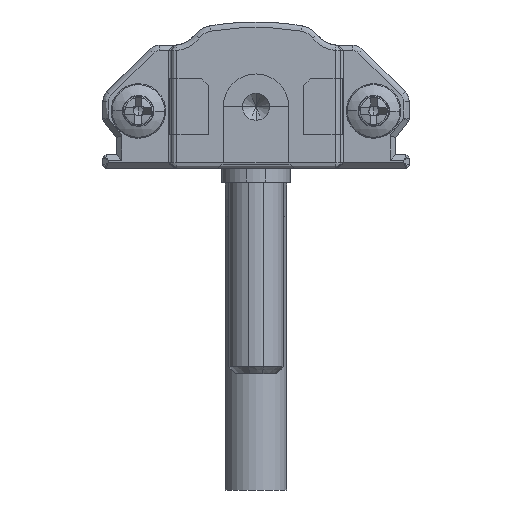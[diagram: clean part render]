
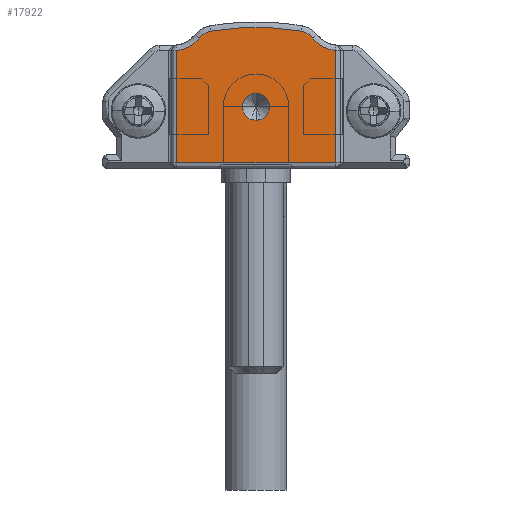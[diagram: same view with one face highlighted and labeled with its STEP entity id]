
A CAD part, front view. The second image highlights one B-rep face of the part: STEP entity #17922.
In plain terms, the highlighted planar face has unit normal (0, -1, 0).
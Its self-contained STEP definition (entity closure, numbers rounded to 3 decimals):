
#316 = CARTESIAN_POINT ( 'NONE',  ( 8.1, -15., 8.75 ) ) ;
#423 = EDGE_CURVE ( 'NONE', #4621, #22729, #12960, .T. ) ;
#453 = DIRECTION ( 'NONE',  ( 0., 0., -1. ) ) ;
#588 = CIRCLE ( 'NONE', #30831, 20.676 ) ;
#1332 = CARTESIAN_POINT ( 'NONE',  ( 14.508, -15., 10.034 ) ) ;
#1482 = CIRCLE ( 'NONE', #5250, 1.3 ) ;
#1896 = FACE_BOUND ( 'NONE', #32739, .T. ) ;
#2021 = LINE ( 'NONE', #27248, #20330 ) ;
#2062 = FACE_OUTER_BOUND ( 'NONE', #30670, .T. ) ;
#2546 = VERTEX_POINT ( 'NONE', #26971 ) ;
#3100 = CARTESIAN_POINT ( 'NONE',  ( 7.068, -15., 9.541 ) ) ;
#3215 = CARTESIAN_POINT ( 'NONE',  ( 11.2, -15., 5.5 ) ) ;
#3285 = CIRCLE ( 'NONE', #20142, 2.4 ) ;
#4621 = VERTEX_POINT ( 'NONE', #5871 ) ;
#5250 = AXIS2_PLACEMENT_3D ( 'NONE', #33092, #7259, #33264 ) ;
#5871 = CARTESIAN_POINT ( 'NONE',  ( 7.892, -15., 10.034 ) ) ;
#6922 = CARTESIAN_POINT ( 'NONE',  ( 15.332, -15., 9.541 ) ) ;
#6948 = CARTESIAN_POINT ( 'NONE',  ( 5.4, -15., 0.4 ) ) ;
#7008 = VECTOR ( 'NONE', #16567, 1000. ) ;
#7191 = VECTOR ( 'NONE', #30894, 1000. ) ;
#7241 = VERTEX_POINT ( 'NONE', #28211 ) ;
#7259 = DIRECTION ( 'NONE',  ( 0., -1., 0. ) ) ;
#7438 = ORIENTED_EDGE ( 'NONE', *, *, #18562, .T. ) ;
#7808 = VERTEX_POINT ( 'NONE', #3215 ) ;
#7908 = CIRCLE ( 'NONE', #25726, 1. ) ;
#9198 = ORIENTED_EDGE ( 'NONE', *, *, #27395, .F. ) ;
#9488 = DIRECTION ( 'NONE',  ( 0., 0., 1. ) ) ;
#10019 = DIRECTION ( 'NONE',  ( 0., 1., 0. ) ) ;
#10129 = EDGE_CURVE ( 'NONE', #12852, #4621, #588, .T. ) ;
#10136 = CARTESIAN_POINT ( 'NONE',  ( 11.2, -15., -10.376 ) ) ;
#10374 = ORIENTED_EDGE ( 'NONE', *, *, #23258, .T. ) ;
#10586 = VERTEX_POINT ( 'NONE', #6948 ) ;
#10701 = ORIENTED_EDGE ( 'NONE', *, *, #14431, .T. ) ;
#11865 = CARTESIAN_POINT ( 'NONE',  ( 11.2, -15., 4.5 ) ) ;
#12058 = CARTESIAN_POINT ( 'NONE',  ( 22.15, -15., 3.606 ) ) ;
#12638 = DIRECTION ( 'NONE',  ( 0., -1., 0. ) ) ;
#12641 = CARTESIAN_POINT ( 'NONE',  ( 5.4, -15., 0.4 ) ) ;
#12852 = VERTEX_POINT ( 'NONE', #1332 ) ;
#12960 = CIRCLE ( 'NONE', #28626, 1.3 ) ;
#13822 = DIRECTION ( 'NONE',  ( 0., -1., 0. ) ) ;
#14431 = EDGE_CURVE ( 'NONE', #23452, #12852, #1482, .T. ) ;
#14700 = AXIS2_PLACEMENT_3D ( 'NONE', #11865, #17298, #26927 ) ;
#15009 = DIRECTION ( 'NONE',  ( 0., 0., -1. ) ) ;
#15415 = LINE ( 'NONE', #21347, #7008 ) ;
#16567 = DIRECTION ( 'NONE',  ( 1., 0., 0. ) ) ;
#16863 = AXIS2_PLACEMENT_3D ( 'NONE', #31220, #28703, #453 ) ;
#16925 = VERTEX_POINT ( 'NONE', #17010 ) ;
#17010 = CARTESIAN_POINT ( 'NONE',  ( 5.4, -15., 8.612 ) ) ;
#17298 = DIRECTION ( 'NONE',  ( 0., -1., 0. ) ) ;
#17922 = ADVANCED_FACE ( 'NONE', ( #2062, #1896 ), #30162, .T. ) ;
#18562 = EDGE_CURVE ( 'NONE', #7241, #23452, #32473, .T. ) ;
#18616 = VERTEX_POINT ( 'NONE', #24322 ) ;
#19541 = DIRECTION ( 'NONE',  ( 0., -1., 0. ) ) ;
#20142 = AXIS2_PLACEMENT_3D ( 'NONE', #23220, #10019, #23067 ) ;
#20330 = VECTOR ( 'NONE', #9488, 1000. ) ;
#21347 = CARTESIAN_POINT ( 'NONE',  ( 17., -15., 0.4 ) ) ;
#22522 = EDGE_CURVE ( 'NONE', #10586, #18616, #15415, .T. ) ;
#22729 = VERTEX_POINT ( 'NONE', #3100 ) ;
#23067 = DIRECTION ( 'NONE',  ( 0., 0., -1. ) ) ;
#23220 = CARTESIAN_POINT ( 'NONE',  ( 5.162, -15., 11. ) ) ;
#23258 = EDGE_CURVE ( 'NONE', #22729, #16925, #3285, .T. ) ;
#23452 = VERTEX_POINT ( 'NONE', #6922 ) ;
#23667 = CARTESIAN_POINT ( 'NONE',  ( 11.2, -15., 4.5 ) ) ;
#24322 = CARTESIAN_POINT ( 'NONE',  ( 17., -15., 0.4 ) ) ;
#25544 = ORIENTED_EDGE ( 'NONE', *, *, #423, .T. ) ;
#25726 = AXIS2_PLACEMENT_3D ( 'NONE', #23667, #13822, #29036 ) ;
#26638 = ORIENTED_EDGE ( 'NONE', *, *, #26989, .T. ) ;
#26927 = DIRECTION ( 'NONE',  ( 0., 0., -1. ) ) ;
#26971 = CARTESIAN_POINT ( 'NONE',  ( 11.2, -15., 3.5 ) ) ;
#26989 = EDGE_CURVE ( 'NONE', #18616, #7241, #2021, .T. ) ;
#27248 = CARTESIAN_POINT ( 'NONE',  ( 17., -15., 8.612 ) ) ;
#27395 = EDGE_CURVE ( 'NONE', #2546, #7808, #7908, .T. ) ;
#27542 = ORIENTED_EDGE ( 'NONE', *, *, #10129, .T. ) ;
#28211 = CARTESIAN_POINT ( 'NONE',  ( 17., -15., 8.612 ) ) ;
#28385 = DIRECTION ( 'NONE',  ( 0., 0., -1. ) ) ;
#28626 = AXIS2_PLACEMENT_3D ( 'NONE', #316, #31244, #28385 ) ;
#28703 = DIRECTION ( 'NONE',  ( 0., 1., 0. ) ) ;
#29036 = DIRECTION ( 'NONE',  ( 0., 0., -1. ) ) ;
#29293 = CIRCLE ( 'NONE', #14700, 1. ) ;
#29828 = AXIS2_PLACEMENT_3D ( 'NONE', #12058, #19541, #30001 ) ;
#29953 = ORIENTED_EDGE ( 'NONE', *, *, #22522, .T. ) ;
#30001 = DIRECTION ( 'NONE',  ( 0., 0., -1. ) ) ;
#30162 = PLANE ( 'NONE',  #29828 ) ;
#30670 = EDGE_LOOP ( 'NONE', ( #26638, #7438, #10701, #27542, #25544, #10374, #32874, #29953 ) ) ;
#30831 = AXIS2_PLACEMENT_3D ( 'NONE', #10136, #12638, #15009 ) ;
#30894 = DIRECTION ( 'NONE',  ( 0., 0., -1. ) ) ;
#31220 = CARTESIAN_POINT ( 'NONE',  ( 17.238, -15., 11. ) ) ;
#31244 = DIRECTION ( 'NONE',  ( 0., -1., 0. ) ) ;
#31451 = EDGE_CURVE ( 'NONE', #7808, #2546, #29293, .T. ) ;
#31835 = EDGE_CURVE ( 'NONE', #16925, #10586, #33420, .T. ) ;
#32473 = CIRCLE ( 'NONE', #16863, 2.4 ) ;
#32739 = EDGE_LOOP ( 'NONE', ( #9198, #33048 ) ) ;
#32874 = ORIENTED_EDGE ( 'NONE', *, *, #31835, .T. ) ;
#33048 = ORIENTED_EDGE ( 'NONE', *, *, #31451, .F. ) ;
#33092 = CARTESIAN_POINT ( 'NONE',  ( 14.3, -15., 8.75 ) ) ;
#33264 = DIRECTION ( 'NONE',  ( 0., 0., -1. ) ) ;
#33420 = LINE ( 'NONE', #12641, #7191 ) ;
